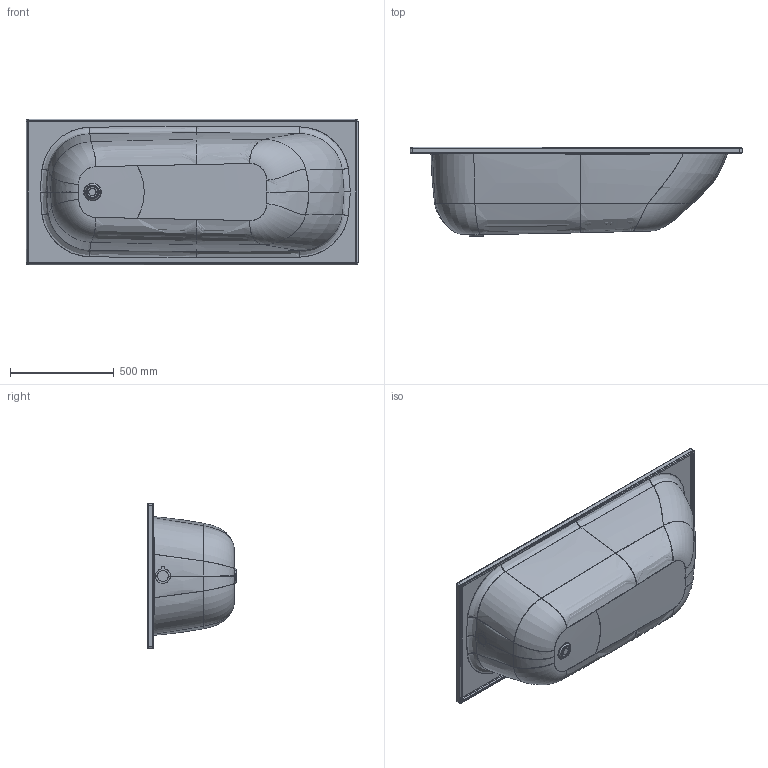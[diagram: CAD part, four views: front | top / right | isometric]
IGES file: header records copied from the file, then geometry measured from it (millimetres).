
Start section: Write IGES format                                    datakit 2008 (c)
Global section: file name: Unknown; native system: DATAKIT Converter; preprocessor: Unknown; author: Unknown; organization: Unknown; date: 950613.180003; units: millimetre
Bounding box: 1600 x 430 x 700 mm (x, y, z)
Surface area: 4409749.6 mm2 (no closed solid volume)
Topology: 0 solids, 0 shells, 171 faces, 1048 edges, 1043 vertices
Faces by surface type: bspline 77, revolution 70, offset 24
